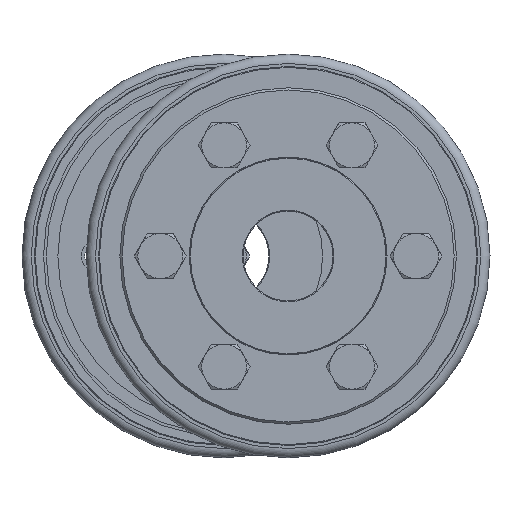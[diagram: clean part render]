
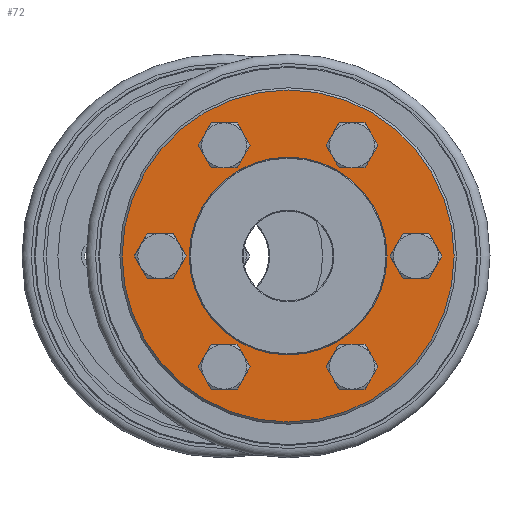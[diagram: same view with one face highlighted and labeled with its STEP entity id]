
A CAD part, left-side view. The second image highlights one B-rep face of the part: STEP entity #72.
In plain terms, the highlighted planar face has unit normal (-1, 0, 0).
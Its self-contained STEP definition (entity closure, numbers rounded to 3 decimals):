
#72 = ADVANCED_FACE( 'NONE', ( #141, #142, #143, #144, #145, #146, #147, #148 ), #149, .F. );
#141 = FACE_OUTER_BOUND( '', #253, .T. );
#142 = FACE_BOUND( '', #254, .T. );
#143 = FACE_BOUND( '', #255, .T. );
#144 = FACE_BOUND( '', #256, .T. );
#145 = FACE_BOUND( '', #257, .T. );
#146 = FACE_BOUND( '', #258, .T. );
#147 = FACE_BOUND( '', #259, .T. );
#148 = FACE_BOUND( '', #260, .T. );
#149 = PLANE( '', #261 );
#253 = EDGE_LOOP( '', ( #440 ) );
#254 = EDGE_LOOP( '', ( #441 ) );
#255 = EDGE_LOOP( '', ( #442 ) );
#256 = EDGE_LOOP( '', ( #443 ) );
#257 = EDGE_LOOP( '', ( #444 ) );
#258 = EDGE_LOOP( '', ( #445 ) );
#259 = EDGE_LOOP( '', ( #446 ) );
#260 = EDGE_LOOP( '', ( #447 ) );
#261 = AXIS2_PLACEMENT_3D( '', #448, #449, #450 );
#440 = ORIENTED_EDGE( '', *, *, #747, .T. );
#441 = ORIENTED_EDGE( '', *, *, #748, .T. );
#442 = ORIENTED_EDGE( '', *, *, #749, .T. );
#443 = ORIENTED_EDGE( '', *, *, #750, .T. );
#444 = ORIENTED_EDGE( '', *, *, #751, .T. );
#445 = ORIENTED_EDGE( '', *, *, #752, .T. );
#446 = ORIENTED_EDGE( '', *, *, #753, .T. );
#447 = ORIENTED_EDGE( '', *, *, #754, .F. );
#448 = CARTESIAN_POINT( '', ( 0., 22., 0. ) );
#449 = DIRECTION( '', ( 1., 0., 0. ) );
#450 = DIRECTION( '', ( 0., 1., 0. ) );
#747 = EDGE_CURVE( 'NONE', #1000, #1000, #1001, .T. );
#748 = EDGE_CURVE( 'NONE', #1002, #1002, #1003, .T. );
#749 = EDGE_CURVE( 'NONE', #1004, #1004, #1005, .T. );
#750 = EDGE_CURVE( 'NONE', #1006, #1006, #1007, .T. );
#751 = EDGE_CURVE( 'NONE', #1008, #1008, #1009, .T. );
#752 = EDGE_CURVE( 'NONE', #1010, #1010, #1011, .T. );
#753 = EDGE_CURVE( 'NONE', #1012, #1012, #1013, .T. );
#754 = EDGE_CURVE( 'NONE', #1014, #1014, #1015, .T. );
#1000 = VERTEX_POINT( '', #1467 );
#1001 = CIRCLE( '', #1468, 37. );
#1002 = VERTEX_POINT( '', #1469 );
#1003 = CIRCLE( '', #1470, 3.3 );
#1004 = VERTEX_POINT( '', #1471 );
#1005 = CIRCLE( '', #1472, 3.3 );
#1006 = VERTEX_POINT( '', #1473 );
#1007 = CIRCLE( '', #1474, 3.3 );
#1008 = VERTEX_POINT( '', #1475 );
#1009 = CIRCLE( '', #1476, 3.3 );
#1010 = VERTEX_POINT( '', #1477 );
#1011 = CIRCLE( '', #1478, 3.3 );
#1012 = VERTEX_POINT( '', #1479 );
#1013 = CIRCLE( '', #1480, 3.3 );
#1014 = VERTEX_POINT( '', #1481 );
#1015 = CIRCLE( '', #1482, 22. );
#1467 = CARTESIAN_POINT( '', ( 0., 0., -37. ) );
#1468 = AXIS2_PLACEMENT_3D( '', #1611, #1612, #1613 );
#1469 = CARTESIAN_POINT( '', ( 0., 14.25, 21.382 ) );
#1470 = AXIS2_PLACEMENT_3D( '', #1614, #1615, #1616 );
#1471 = CARTESIAN_POINT( '', ( 0., -14.25, 21.382 ) );
#1472 = AXIS2_PLACEMENT_3D( '', #1617, #1618, #1619 );
#1473 = CARTESIAN_POINT( '', ( 0., -28.5, -3.3 ) );
#1474 = AXIS2_PLACEMENT_3D( '', #1620, #1621, #1622 );
#1475 = CARTESIAN_POINT( '', ( 0., -14.25, -27.982 ) );
#1476 = AXIS2_PLACEMENT_3D( '', #1623, #1624, #1625 );
#1477 = CARTESIAN_POINT( '', ( 0., 14.25, -27.982 ) );
#1478 = AXIS2_PLACEMENT_3D( '', #1626, #1627, #1628 );
#1479 = CARTESIAN_POINT( '', ( 0., 28.5, -3.3 ) );
#1480 = AXIS2_PLACEMENT_3D( '', #1629, #1630, #1631 );
#1481 = CARTESIAN_POINT( '', ( 0., 0., 22. ) );
#1482 = AXIS2_PLACEMENT_3D( '', #1632, #1633, #1634 );
#1611 = CARTESIAN_POINT( '', ( 0., 0., 0. ) );
#1612 = DIRECTION( '', ( -1., 0., 0. ) );
#1613 = DIRECTION( '', ( 0., 0., -1. ) );
#1614 = CARTESIAN_POINT( '', ( 0., 14.25, 24.682 ) );
#1615 = DIRECTION( '', ( 1., 0., 0. ) );
#1616 = DIRECTION( '', ( 0., 0., -1. ) );
#1617 = CARTESIAN_POINT( '', ( 0., -14.25, 24.682 ) );
#1618 = DIRECTION( '', ( 1., 0., 0. ) );
#1619 = DIRECTION( '', ( 0., 0., -1. ) );
#1620 = CARTESIAN_POINT( '', ( 0., -28.5, 0. ) );
#1621 = DIRECTION( '', ( 1., 0., 0. ) );
#1622 = DIRECTION( '', ( 0., 0., -1. ) );
#1623 = CARTESIAN_POINT( '', ( 0., -14.25, -24.682 ) );
#1624 = DIRECTION( '', ( 1., 0., 0. ) );
#1625 = DIRECTION( '', ( 0., 0., -1. ) );
#1626 = CARTESIAN_POINT( '', ( 0., 14.25, -24.682 ) );
#1627 = DIRECTION( '', ( 1., 0., 0. ) );
#1628 = DIRECTION( '', ( 0., 0., -1. ) );
#1629 = CARTESIAN_POINT( '', ( 0., 28.5, 0. ) );
#1630 = DIRECTION( '', ( 1., 0., 0. ) );
#1631 = DIRECTION( '', ( 0., 0., -1. ) );
#1632 = CARTESIAN_POINT( '', ( 0., 0., 0. ) );
#1633 = DIRECTION( '', ( -1., 0., 0. ) );
#1634 = DIRECTION( '', ( 0., 0., 1. ) );
